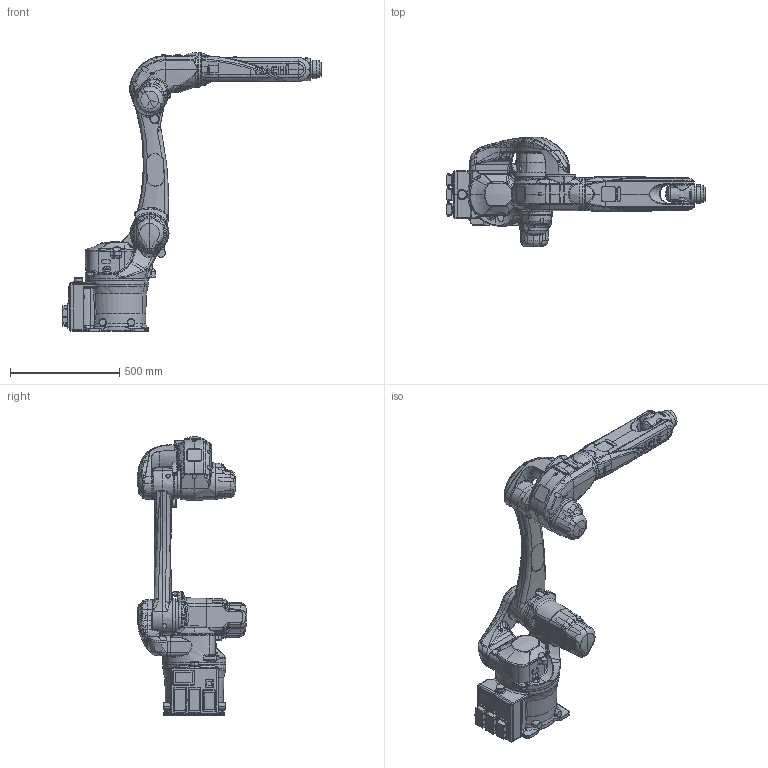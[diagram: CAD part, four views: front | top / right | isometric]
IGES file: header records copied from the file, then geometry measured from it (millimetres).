
Start section: START RECORD GO HERE.
Global section: file name: 00_UMMZ12_ALL_ASSY.igs; native system: DASSAULT SYSTEMES CATIA Version 5-6 Release 2012 - www.3ds.com; preprocessor: V5-6R2012_5.22.4.0.11-16-2012.22.00; author: RBT00348; organization: NACHI-JP; date: 20170720.201038; units: millimetre
Bounding box: 1181.5 x 501.02 x 1276.98 mm (x, y, z)
Volume: 67868795.2 mm3; surface area: 2328950.4 mm2
Topology: 13 solids, 26 shells, 4461 faces, 11737 edges, 7177 vertices
Faces by surface type: bspline 4461
